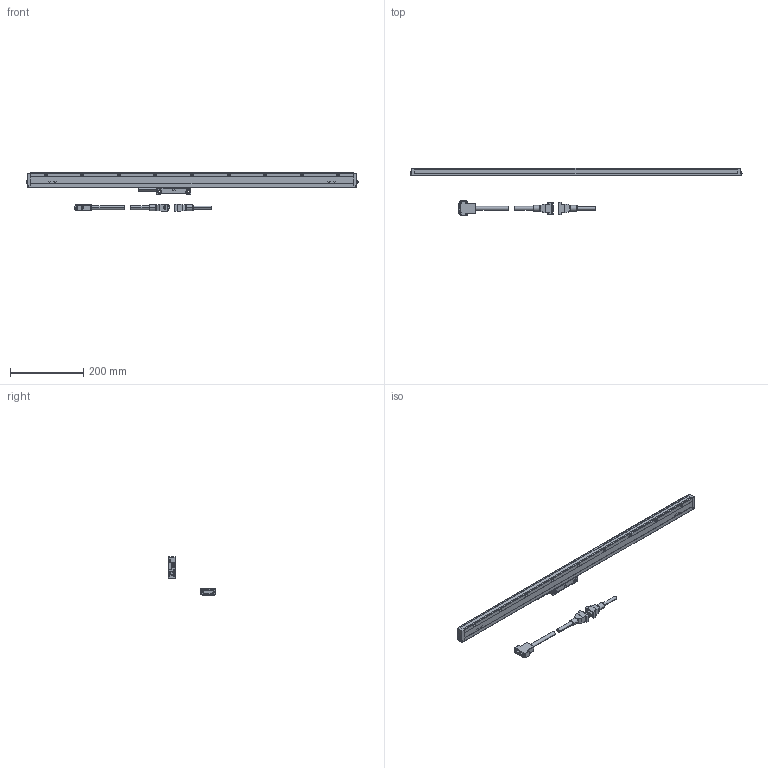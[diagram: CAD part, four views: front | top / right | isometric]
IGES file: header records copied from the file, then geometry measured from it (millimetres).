
Start section: Elysium IGES Interface
Global section: file name: 73H\\Utsu119s\kiyo_cad\data\3D\AT211\HP掲載用_201803\多点固定\AT211-750A.igs; native system: Creo Elements/Direct Modeling 18.1B  29-Sep-2012; preprocessor: Creo Element/Direct IGES_3D V2.2; author: Unknown; organization: Unknown; date: 20180315.100949; units: millimetre
Bounding box: 907.12 x 130.6 x 105 mm (x, y, z)
Volume: 787937.2 mm3; surface area: 155563.4 mm2
Topology: 5 solids, 5 shells, 1075 faces, 2586 edges, 1524 vertices
Faces by surface type: bspline 1075
